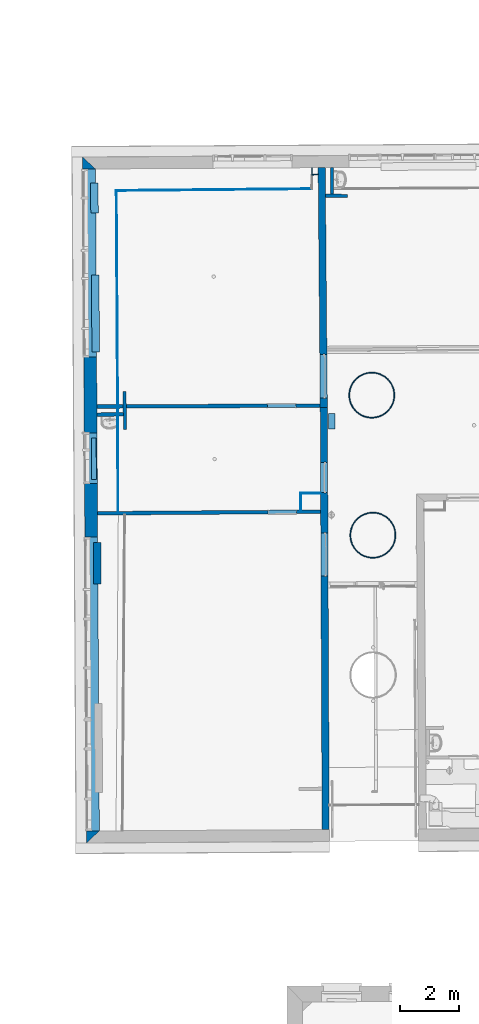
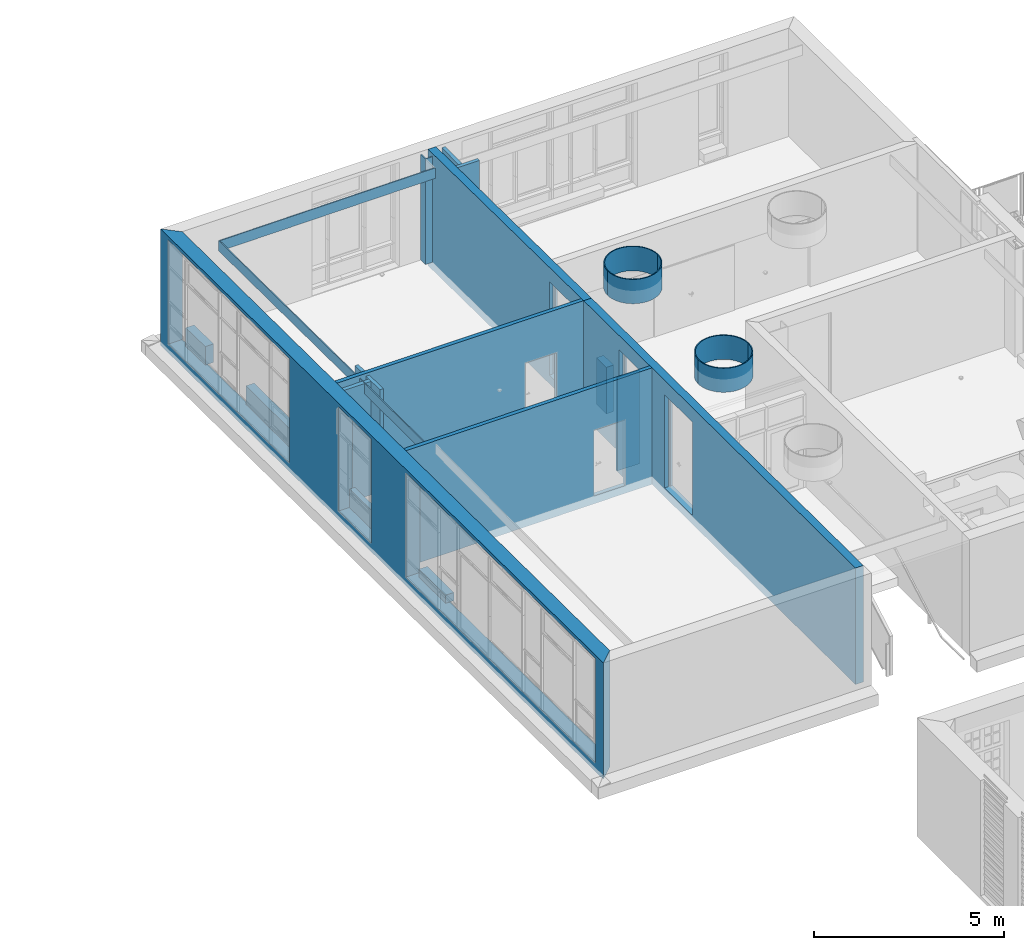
# One storey, part 26 of 158: 25 walls, 8 openings.
"""IFC2X3 building model written with IfcOpenShell, lengths in metres."""

from ifc_helpers import new_model, entity, si_unit, converted_unit, derived_unit, money_unit, point, direction, frame, frame_2d, origin_with_axes, origin_2d_with_axis, place, context, subcontext, project, spatial, polyline, circle_curve, parameter, trimmed, segment, composite_curve, rectangle, outline, extrude, faceted_brep, material, layer, layer_set, layer_usage, type_object, element, save


model = new_model("IFC2X3")

# Units and contexts
model_context = context("Model", 3, precision=1e-05, world=origin_with_axes(), true_north=direction((0.0, 1.0)))
body_context = subcontext(model_context, "Body", "Model", "MODEL_VIEW")
ifc_project = project(units=[si_unit("LENGTHUNIT", "METRE"), si_unit("AREAUNIT", "SQUARE_METRE"), si_unit("VOLUMEUNIT", "CUBIC_METRE"), converted_unit("PLANEANGLEUNIT", "DEGREE", entity("IfcPlaneAngleMeasure", 0.0174532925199), si_unit("PLANEANGLEUNIT", "RADIAN"), dimensions=[0, 0, 0, 0, 0, 0, 0]), money_unit("EUR"), converted_unit("TIMEUNIT", "Year", entity("IfcTimeMeasure", 31556926.0), si_unit("TIMEUNIT", "SECOND"), dimensions=[0, 0, 1, 0, 0, 0, 0]), si_unit("MASSUNIT", "GRAM", prefix="KILO"), si_unit("THERMODYNAMICTEMPERATUREUNIT", "DEGREE_CELSIUS"), si_unit("LUMINOUSINTENSITYUNIT", "LUMEN"), si_unit("ENERGYUNIT", "JOULE", prefix="MEGA"), derived_unit("THERMALCONDUCTANCEUNIT", [(si_unit("POWERUNIT", "WATT"), 1), (si_unit("LENGTHUNIT", "METRE"), -1), (si_unit("THERMODYNAMICTEMPERATUREUNIT", "KELVIN"), -1)]), derived_unit("SPECIFICHEATCAPACITYUNIT", [(si_unit("ENERGYUNIT", "JOULE"), 1), (si_unit("MASSUNIT", "GRAM", prefix="KILO"), -1), (si_unit("THERMODYNAMICTEMPERATUREUNIT", "KELVIN"), -1)]), derived_unit("MASSDENSITYUNIT", [(si_unit("MASSUNIT", "GRAM", prefix="KILO"), 1), (si_unit("VOLUMEUNIT", "CUBIC_METRE"), -1)])], contexts=[model_context])

# Site, building, storey
site_placement = place(None, origin_with_axes())
site = spatial("IfcSite", under=ifc_project, at=site_placement, Name="Gelände", CompositionType="ELEMENT")
building_placement = place(site_placement, origin_with_axes())
building = spatial("IfcBuilding", under=site, at=building_placement, Name="Gebäude", CompositionType="ELEMENT")
storey_placement = place(building_placement, origin_with_axes())
storey = spatial("IfcBuildingStorey", under=building, at=storey_placement, Name="ERDGESCHOSS", CompositionType="ELEMENT", Elevation=0.0)

# Wall, openings
ifc_material_1 = material(Name="05_ALLGEMEIN - TRAGENDE BAUTEILE")
ifc_layer_1 = layer(ifc_material_1, 0.43, ventilated="UNKNOWN")
ifc_layer_set_1 = layer_set([ifc_layer_1], Name="05_ALLGEMEIN - TRAGENDE BAUTEILE 0.43")
ifc_layer_usage_1 = layer_usage(ifc_layer_set_1, "AXIS2", "NEGATIVE", 0.43)
wall_type_1 = type_object("IfcWallType", Name="05_ALLGEMEIN - TRAGENDE BAUTEILE 430", PredefinedType="ELEMENTEDWALL")
wall_1_placement = place(storey_placement, frame((-34.9499215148, 53.9095265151, 1.06), z_axis=(0.0, 0.0, 1.0), x_axis=(0.00586471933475, -0.999982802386, 0.0)))
wall_1 = element("IfcWallStandardCase", 1, at=wall_1_placement, inside=storey, type_object=wall_type_1, material=ifc_layer_usage_1, Name="Wand-030", ObjectType="ELEMENTEDWALL", context=body_context, shape_type="SweptSolid", body=[
    extrude(outline(polyline([(0.0, 0.0), (23.068675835, 0.0), (22.6686239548, 0.43), (0.399981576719, 0.43), (0.0, 0.0)])), origin_with_axes(), (0.0, 0.0, 1.0), 3.74),
])
opening_1_placement = place(wall_1_placement, frame((3.56307867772, 0.0, 0.280439), z_axis=(0.0, 0.0, 1.0), x_axis=(1.0, 0.0, 0.0)))
element("IfcOpeningElement", 2, at=opening_1_placement, cuts=wall_1, Name="Fenster-021", context=body_context, shape_type="Brep", body=[
    faceted_brep([(3.163097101, 0.43, 0.0), (3.163097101, 0.43, 3.34343050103), (3.163097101, -0.86, 3.34343050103), (3.163097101, -0.86, 0.0), (-3.163097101, 0.43, 0.0), (-3.163097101, 0.43, 3.34343050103), (-3.163097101, -0.86, 3.34343050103), (-3.163097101, -0.86, 0.0)], [[[0, 1, 2, 3]], [[0, 4, 5, 1]], [[1, 5, 6, 2]], [[3, 2, 6, 7]], [[4, 0, 3, 7]], [[5, 4, 7, 6]]]),
])
opening_2_placement = place(wall_1_placement, frame((10.1296860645, 0.0, 0.280439), z_axis=(0.0, 0.0, 1.0), x_axis=(1.0, 0.0, 0.0)))
element("IfcOpeningElement", 3, at=opening_2_placement, cuts=wall_1, Name="Fenster-021", context=body_context, shape_type="SweptSolid", body=[
    extrude(rectangle(XDim=1.70991229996, YDim=3.34343050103, at=origin_2d_with_axis()), frame((0.0, 0.43, 1.67171525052), z_axis=(0.0, 1.0, 0.0), x_axis=(-1.0, 0.0, 0.0)), (0.0, 0.0, -1.0), 1.29),
])
opening_3_placement = place(wall_1_placement, frame((17.7270727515, 0.0, 0.280439), z_axis=(0.0, 0.0, 1.0), x_axis=(1.0, 0.0, 0.0)))
element("IfcOpeningElement", 4, at=opening_3_placement, cuts=wall_1, Name="Fenster-022", context=body_context, shape_type="SweptSolid", body=[
    extrude(rectangle(XDim=9.88310240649, YDim=3.34343050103, at=origin_2d_with_axis()), frame((0.0, 0.43, 1.67171525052), z_axis=(0.0, 1.0, 0.0), x_axis=(-1.0, 0.0, 0.0)), (0.0, 0.0, -1.0), 1.29),
])

# Walls
ifc_material_2 = material(Name="43_Gipskarton")
ifc_layer_2 = layer(ifc_material_2, 0.03, ventilated="UNKNOWN")
ifc_layer_set_2 = layer_set([ifc_layer_2], Name="43_Gipskarton 0.03")
ifc_layer_usage_2 = layer_usage(ifc_layer_set_2, "AXIS2", "NEGATIVE", 0.0)
wall_type_2 = type_object("IfcWallType", Name="43_Gipskarton 30", PredefinedType="ELEMENTEDWALL")
wall_2_placement = place(storey_placement, frame((-26.7862715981, 53.3212009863, 1.32), z_axis=(0.0, 0.0, 1.0), x_axis=(-0.999470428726, -0.0325401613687, 0.0)))
element("IfcWallStandardCase", 5, at=wall_2_placement, inside=storey, type_object=wall_type_2, material=ifc_layer_usage_2, Name="Wand-031", ObjectType="ELEMENTEDWALL", context=body_context, shape_type="SweptSolid", body=[
    extrude(outline(polyline([(0.239355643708, -0.03), (0.430657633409, -0.03), (0.461293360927, 0.0), (0.2400675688, 0.0), (0.239355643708, -0.03)])), origin_with_axes(), (0.0, 0.0, 1.0), 3.39),
])
ifc_layer_usage_3 = layer_usage(ifc_layer_set_2, "AXIS2", "NEGATIVE", 0.03)
wall_3_placement = place(storey_placement, frame((-26.7045279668, 42.6114149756, 1.32), z_axis=(0.0, 0.0, 1.0), x_axis=(-0.999975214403, 0.00704063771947, 0.0)))
element("IfcWallStandardCase", 6, at=wall_3_placement, inside=storey, type_object=wall_type_2, material=ifc_layer_usage_3, Name="Wand-031", ObjectType="ELEMENTEDWALL", context=body_context, shape_type="SweptSolid", body=[
    extrude(outline(polyline([(0.240015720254, 0.0), (0.923166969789, 0.0), (0.892996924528, 0.03), (0.239672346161, 0.03), (0.240015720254, 0.0)])), origin_with_axes(), (0.0, 0.0, 1.0), 3.005),
])
ifc_layer_usage_4 = layer_usage(ifc_layer_set_2, "AXIS2", "NEGATIVE", 0.03)
wall_4_placement = place(storey_placement, frame((-27.6276720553, 42.6179146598, 1.32), z_axis=(0.0, 0.0, 1.0), x_axis=(-0.00138855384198, -0.999999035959, 0.0)))
element("IfcWallStandardCase", 7, at=wall_4_placement, inside=storey, type_object=wall_type_2, material=ifc_layer_usage_4, Name="Wand-032", ObjectType="ELEMENTEDWALL", context=body_context, shape_type="SweptSolid", body=[
    extrude(outline(polyline([(0.0, 0.0), (0.579972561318, 0.0), (0.579712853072, 0.03), (0.0301700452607, 0.03), (0.0, 0.0)])), origin_with_axes(), (0.0, 0.0, 1.0), 3.005),
])
ifc_layer_usage_5 = layer_usage(ifc_layer_set_2, "AXIS2", "NEGATIVE", 0.0)
wall_5_placement = place(storey_placement, frame((-27.2473206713, 53.3061904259, 1.32), z_axis=(0.0, 0.0, 1.0), x_axis=(-0.0115776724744, 0.999932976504, 0.0)))
element("IfcWallStandardCase", 8, at=wall_5_placement, inside=storey, type_object=wall_type_2, material=ifc_layer_usage_5, Name="Wand-032", ObjectType="ELEMENTEDWALL", context=body_context, shape_type="SweptSolid", body=[
    extrude(outline(polyline([(0.0306357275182, -0.03), (0.248663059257, -0.03), (0.248833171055, 0.0), (0.0, 0.0), (0.0306357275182, -0.03)])), origin_with_axes(), (0.0, 0.0, 1.0), 3.39),
])
ifc_layer_usage_6 = layer_usage(ifc_layer_set_2, "AXIS2", "NEGATIVE", 0.0)
wall_6_placement = place(storey_placement, frame((-33.7839000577, 45.4615740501, 4.375), z_axis=(0.0, 0.0, 1.0), x_axis=(-0.00613669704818, 0.999981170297, 0.0)))
element("IfcWallStandardCase", 9, at=wall_6_placement, inside=storey, type_object=wall_type_2, material=ifc_layer_usage_6, Name="Wand-039", ObjectType="ELEMENTEDWALL", context=body_context, shape_type="SweptSolid", body=[
    extrude(outline(polyline([(0.122153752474, -0.03), (7.30589544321, -0.03), (7.33580168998, 0.0), (0.122212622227, 0.0), (0.122153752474, -0.03)])), origin_with_axes(), (0.0, 0.0, 1.0), 0.335),
])
ifc_layer_usage_7 = layer_usage(ifc_layer_set_2, "AXIS2", "NEGATIVE", 0.0)
wall_7_placement = place(storey_placement, frame((-33.7735715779, 41.8710626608, 4.375), z_axis=(0.0, 0.0, 1.0), x_axis=(-0.00237863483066, 0.999997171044, 0.0)))
element("IfcWallStandardCase", 10, at=wall_7_placement, inside=storey, type_object=wall_type_2, material=ifc_layer_usage_7, Name="Wand-039", ObjectType="ELEMENTEDWALL", context=body_context, shape_type="SweptSolid", body=[
    extrude(outline(polyline([(0.122360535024, -0.03), (3.59058288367, -0.03), (3.59052901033, 0.0), (0.122213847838, 0.0), (0.122360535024, -0.03)])), origin_with_axes(), (0.0, 0.0, 1.0), 0.335),
])
ifc_layer_usage_8 = layer_usage(ifc_layer_set_2, "AXIS2", "NEGATIVE", 0.0)
wall_8_placement = place(storey_placement, frame((-33.8289176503, 52.7972376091, 4.375), z_axis=(0.0, 0.0, 1.0), x_axis=(0.99995706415, 0.00926659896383, 0.0)))
element("IfcWallStandardCase", 11, at=wall_8_placement, inside=storey, type_object=wall_type_2, material=ifc_layer_usage_8, Name="Wand-040", ObjectType="ELEMENTEDWALL", context=body_context, shape_type="SweptSolid", body=[
    extrude(outline(polyline([(0.0299062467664, -0.03), (6.60613655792, -0.03), (6.57675156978, 0.0), (0.0, 0.0), (0.0299062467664, -0.03)])), origin_with_axes(), (0.0, 0.0, 1.0), 0.335),
])
ifc_layer_usage_9 = layer_usage(ifc_layer_set_2, "AXIS2", "NEGATIVE", 0.0)
wall_9_placement = place(storey_placement, frame((-24.4808750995, 45.9024343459, 4.385), z_axis=(0.0, 0.0, 1.0), x_axis=(0.0, 1.0, 0.0)))
element("IfcWallStandardCase", 12, at=wall_9_placement, inside=storey, type_object=wall_type_2, material=ifc_layer_usage_9, Name="Wand-042", ObjectType="ELEMENTEDWALL", context=body_context, shape_type="SweptSolid", body=[
    extrude(outline(composite_curve([segment(trimmed(circle_curve(frame_2d((0.0, 0.742022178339), x_axis=(0.0, -1.0)), 0.772022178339), [point((0.0, -0.03)), parameter(0.0)], [point((0.0, 1.51404435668)), parameter(180.0)], True, "CARTESIAN"), True, "CONTINUOUS"), segment(polyline([(0.0, 1.51404435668), (0.0, 1.48404435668)]), True, "CONTINUOUS"), segment(trimmed(circle_curve(frame_2d((0.0, 0.742022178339), x_axis=(0.0, -1.0)), 0.742022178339), [point((0.0, 1.48404435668)), parameter(180.0)], [point((0.0, 0.0)), parameter(0.0)], False, "CARTESIAN"), True, "CONTINUOUS"), segment(polyline([(0.0, 0.0), (0.0, -0.03)]), True, "CONTINUOUS")], self_intersect=False)), origin_with_axes(), (0.0, 0.0, 1.0), 0.78255860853),
])
ifc_layer_usage_10 = layer_usage(ifc_layer_set_2, "AXIS2", "NEGATIVE", 0.0)
wall_10_placement = place(storey_placement, frame((-25.9649194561, 45.9024343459, 4.385), z_axis=(0.0, 0.0, 1.0), x_axis=(0.0, -1.0, 0.0)))
element("IfcWallStandardCase", 13, at=wall_10_placement, inside=storey, type_object=wall_type_2, material=ifc_layer_usage_10, Name="Wand-043", ObjectType="ELEMENTEDWALL", context=body_context, shape_type="SweptSolid", body=[
    extrude(outline(composite_curve([segment(trimmed(circle_curve(frame_2d((0.0, 0.742022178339), x_axis=(0.0, -1.0)), 0.772022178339), [point((0.0, -0.03)), parameter(0.0)], [point((0.0, 1.51404435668)), parameter(180.0)], True, "CARTESIAN"), True, "CONTINUOUS"), segment(polyline([(0.0, 1.51404435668), (0.0, 1.48404435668)]), True, "CONTINUOUS"), segment(trimmed(circle_curve(frame_2d((0.0, 0.742022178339), x_axis=(0.0, -1.0)), 0.742022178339), [point((0.0, 1.48404435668)), parameter(180.0)], [point((0.0, 0.0)), parameter(0.0)], False, "CARTESIAN"), True, "CONTINUOUS"), segment(polyline([(0.0, 0.0), (0.0, -0.03)]), True, "CONTINUOUS")], self_intersect=False)), origin_with_axes(), (0.0, 0.0, 1.0), 0.78255860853),
])
ifc_layer_usage_11 = layer_usage(ifc_layer_set_2, "AXIS2", "NEGATIVE", 0.0)
wall_11_placement = place(storey_placement, frame((-24.4430411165, 41.1915924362, 4.385), z_axis=(0.0, 0.0, 1.0), x_axis=(0.0, 1.0, 0.0)))
element("IfcWallStandardCase", 14, at=wall_11_placement, inside=storey, type_object=wall_type_2, material=ifc_layer_usage_11, Name="Wand-044", ObjectType="ELEMENTEDWALL", context=body_context, shape_type="SweptSolid", body=[
    extrude(outline(composite_curve([segment(trimmed(circle_curve(frame_2d((0.0, 0.742621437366), x_axis=(0.0, -1.0)), 0.772621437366), [point((0.0, -0.03)), parameter(0.0)], [point((0.0, 1.51524287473)), parameter(180.0)], True, "CARTESIAN"), True, "CONTINUOUS"), segment(polyline([(0.0, 1.51524287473), (0.0, 1.48524287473)]), True, "CONTINUOUS"), segment(trimmed(circle_curve(frame_2d((0.0, 0.742621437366), x_axis=(0.0, -1.0)), 0.742621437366), [point((0.0, 1.48524287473)), parameter(180.0)], [point((0.0, 0.0)), parameter(0.0)], False, "CARTESIAN"), True, "CONTINUOUS"), segment(polyline([(0.0, 0.0), (0.0, -0.03)]), True, "CONTINUOUS")], self_intersect=False)), origin_with_axes(), (0.0, 0.0, 1.0), 0.77255860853),
])
ifc_layer_usage_12 = layer_usage(ifc_layer_set_2, "AXIS2", "NEGATIVE", 0.0)
wall_12_placement = place(storey_placement, frame((-25.9282839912, 41.1915924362, 4.385), z_axis=(0.0, 0.0, 1.0), x_axis=(0.0, -1.0, 0.0)))
element("IfcWallStandardCase", 15, at=wall_12_placement, inside=storey, type_object=wall_type_2, material=ifc_layer_usage_12, Name="Wand-045", ObjectType="ELEMENTEDWALL", context=body_context, shape_type="SweptSolid", body=[
    extrude(outline(composite_curve([segment(trimmed(circle_curve(frame_2d((0.0, 0.742621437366), x_axis=(0.0, -1.0)), 0.772621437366), [point((0.0, -0.03)), parameter(0.0)], [point((0.0, 1.51524287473)), parameter(180.0)], True, "CARTESIAN"), True, "CONTINUOUS"), segment(polyline([(0.0, 1.51524287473), (0.0, 1.48524287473)]), True, "CONTINUOUS"), segment(trimmed(circle_curve(frame_2d((0.0, 0.742621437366), x_axis=(0.0, -1.0)), 0.742621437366), [point((0.0, 1.48524287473)), parameter(180.0)], [point((0.0, 0.0)), parameter(0.0)], False, "CARTESIAN"), True, "CONTINUOUS"), segment(polyline([(0.0, 0.0), (0.0, -0.03)]), True, "CONTINUOUS")], self_intersect=False)), origin_with_axes(), (0.0, 0.0, 1.0), 0.77255860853),
])
ifc_material_3 = material(Name="01_ALLGEMEIN - BAUTEIL")
ifc_layer_3 = layer(ifc_material_3, 0.255, ventilated="UNKNOWN")
ifc_layer_set_3 = layer_set([ifc_layer_3], Name="01_ALLGEMEIN - BAUTEIL 0.255")
ifc_layer_usage_13 = layer_usage(ifc_layer_set_3, "AXIS2", "NEGATIVE", 0.255)
wall_type_3 = type_object("IfcWallType", Name="01_ALLGEMEIN - BAUTEIL 255", PredefinedType="ELEMENTEDWALL")
wall_13_placement = place(storey_placement, frame((-34.384596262, 47.3509567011, 1.46772922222), z_axis=(0.0, 0.0, 1.0), x_axis=(-0.0048051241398, 0.999988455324, 0.0)))
element("IfcWallStandardCase", 16, at=wall_13_placement, inside=storey, type_object=wall_type_3, material=ifc_layer_usage_13, Name="Wand-030", ObjectType="ELEMENTEDWALL", context=body_context, shape_type="SweptSolid", body=[
    extrude(outline(polyline([(0.0, 0.0), (2.59025073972, 0.0), (2.59025073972, 0.255), (0.0, 0.255), (0.0, 0.0)])), origin_with_axes(), (0.0, 0.0, 1.0), 0.594573),
])
ifc_layer_usage_14 = layer_usage(ifc_layer_set_3, "AXIS2", "NEGATIVE", 0.255)
wall_14_placement = place(storey_placement, frame((-34.3263151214, 39.5534769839, 1.34787238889), z_axis=(0.0, 0.0, 1.0), x_axis=(-0.00235430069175, 0.99999722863, 0.0)))
element("IfcWallStandardCase", 17, at=wall_14_placement, inside=storey, type_object=wall_type_3, material=ifc_layer_usage_14, Name="Wand-030", ObjectType="ELEMENTEDWALL", context=body_context, shape_type="SweptSolid", body=[
    extrude(outline(polyline([(0.0, 0.0), (1.39208854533, 0.0), (1.39208854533, 0.255), (0.0, 0.255), (0.0, 0.0)])), origin_with_axes(), (0.0, 0.0, 1.0), 0.260503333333),
])
ifc_layer_usage_15 = layer_usage(ifc_layer_set_3, "AXIS2", "NEGATIVE", 0.0)
wall_15_placement = place(storey_placement, frame((-34.4377581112, 53.040588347, 1.46772922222), z_axis=(0.0, 0.0, 1.0), x_axis=(0.0171126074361, -0.999853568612, 0.0)))
element("IfcWallStandardCase", 18, at=wall_15_placement, inside=storey, type_object=wall_type_3, material=ifc_layer_usage_15, Name="Wand-031", ObjectType="ELEMENTEDWALL", context=body_context, shape_type="SweptSolid", body=[
    extrude(outline(polyline([(0.0, -0.255), (1.00876333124, -0.255), (1.00876333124, 0.0), (0.0, 0.0), (0.0, -0.255)])), origin_with_axes(), (0.0, 0.0, 1.0), 0.594573),
])
ifc_layer_4 = layer(ifc_material_3, 0.225, ventilated="UNKNOWN")
ifc_layer_set_4 = layer_set([ifc_layer_4], Name="01_ALLGEMEIN - BAUTEIL 0.225")
ifc_layer_usage_16 = layer_usage(ifc_layer_set_4, "AXIS2", "NEGATIVE", 0.225)
wall_type_4 = type_object("IfcWallType", Name="01_ALLGEMEIN - BAUTEIL 225", PredefinedType="ELEMENTEDWALL")
wall_16_placement = place(storey_placement, frame((-26.4592410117, 44.7719121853, 1.49977922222), z_axis=(0.0, 0.0, 1.0), x_axis=(-0.00585972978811, 0.999982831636, 0.0)))
element("IfcWallStandardCase", 19, at=wall_16_placement, inside=storey, type_object=wall_type_4, material=ifc_layer_usage_16, Name="Wand-030", ObjectType="ELEMENTEDWALL", context=body_context, shape_type="SweptSolid", body=[
    extrude(outline(polyline([(0.0, 0.0), (0.520794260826, 0.0), (0.520794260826, 0.225), (0.0, 0.225), (0.0, 0.0)])), origin_with_axes(), (0.0, 0.0, 1.0), 1.495583),
])
ifc_layer_5 = layer(ifc_material_3, 0.16, ventilated="UNKNOWN")
ifc_layer_set_5 = layer_set([ifc_layer_5], Name="01_ALLGEMEIN - BAUTEIL 0.16")
ifc_layer_usage_17 = layer_usage(ifc_layer_set_5, "AXIS2", "NEGATIVE", 0.16)
wall_type_5 = type_object("IfcWallType", Name="01_ALLGEMEIN - BAUTEIL 160", PredefinedType="ELEMENTEDWALL")
wall_17_placement = place(storey_placement, frame((-34.4845198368, 43.0734004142, 1.46772922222), z_axis=(0.0, 0.0, 1.0), x_axis=(-0.0104920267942, 0.999944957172, 0.0)))
element("IfcWallStandardCase", 20, at=wall_17_placement, inside=storey, type_object=wall_type_5, material=ifc_layer_usage_17, Name="Wand-030", ObjectType="ELEMENTEDWALL", context=body_context, shape_type="SweptSolid", body=[
    extrude(outline(polyline([(0.0, 0.0), (1.39557600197, 0.0), (1.39557600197, 0.16), (0.0, 0.16), (0.0, 0.0)])), origin_with_axes(), (0.0, 0.0, 1.0), 0.6),
])

# Wall, openings
ifc_layer_6 = layer(ifc_material_1, 0.24, ventilated="UNKNOWN")
ifc_layer_set_6 = layer_set([ifc_layer_6], Name="05_ALLGEMEIN - TRAGENDE BAUTEILE 0.24")
ifc_layer_usage_18 = layer_usage(ifc_layer_set_6, "AXIS2", "NEGATIVE", 0.0)
wall_type_6 = type_object("IfcWallType", Name="05_ALLGEMEIN - TRAGENDE BAUTEILE 240", PredefinedType="ELEMENTEDWALL")
wall_18_placement = place(storey_placement, frame((-26.7172118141, 45.4910734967, 1.06), z_axis=(0.0, 0.0, 1.0), x_axis=(0.00440459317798, -0.999990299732, 0.0)))
wall_18 = element("IfcWallStandardCase", 21, at=wall_18_placement, inside=storey, type_object=wall_type_6, material=ifc_layer_usage_18, Name="Wand-031", ObjectType="ELEMENTEDWALL", context=body_context, shape_type="SweptSolid", body=[
    extrude(outline(polyline([(0.000529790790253, -0.24), (14.2014948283, -0.24), (14.2011154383, 0.0), (0.0, 0.0), (0.000529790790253, -0.24)])), origin_with_axes(), (0.0, 0.0, 1.0), 3.74),
])
opening_4_placement = place(wall_18_placement, frame((4.94845001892, 0.0, 0.280439), z_axis=(0.0, 0.0, 1.0), x_axis=(1.0, 0.0, 0.0)))
element("IfcOpeningElement", 22, at=opening_4_placement, cuts=wall_18, Name="Tür-022", context=body_context, shape_type="SweptSolid", body=[
    extrude(rectangle(XDim=1.45150553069, YDim=2.994561, at=origin_2d_with_axis()), frame((0.0, -0.125, 1.4972805), z_axis=(0.0, 1.0, 0.0), x_axis=(1.0, 0.0, 0.0)), (0.0, 0.0, -1.0), 0.355),
    extrude(rectangle(XDim=1.49150553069, YDim=3.014561, at=origin_2d_with_axis()), frame((0.0, -0.06, 1.5072805), z_axis=(0.0, -1.0, 0.0), x_axis=(1.0, 0.0, 0.0)), (0.0, 0.0, 1.0), 0.065),
    extrude(rectangle(XDim=1.45150553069, YDim=2.994561, at=origin_2d_with_axis()), frame((0.0, -0.06, 1.4972805), z_axis=(0.0, -1.0, 0.0), x_axis=(1.0, 0.0, 0.0)), (0.0, 0.0, -1.0), 0.3),
])
opening_5_placement = place(wall_18_placement, frame((2.36044873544, 0.0, 0.280439), z_axis=(0.0, 0.0, 1.0), x_axis=(1.0, 0.0, 0.0)))
element("IfcOpeningElement", 23, at=opening_5_placement, cuts=wall_18, Name="Tür-022", context=body_context, shape_type="SweptSolid", body=[
    extrude(rectangle(XDim=1.0137106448, YDim=2.994561, at=origin_2d_with_axis()), frame((0.0, -0.125, 1.4972805), z_axis=(0.0, -1.0, 0.0), x_axis=(1.0, 0.0, 0.0)), (0.0, 0.0, 1.0), 0.355),
    extrude(rectangle(XDim=1.0537106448, YDim=3.014561, at=origin_2d_with_axis()), frame((0.0, -0.06, 1.5072805), z_axis=(0.0, 1.0, 0.0), x_axis=(1.0, 0.0, 0.0)), (0.0, 0.0, -1.0), 0.065),
    extrude(rectangle(XDim=1.0137106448, YDim=2.994561, at=origin_2d_with_axis()), frame((0.0, -0.06, 1.4972805), z_axis=(0.0, 1.0, 0.0), x_axis=(1.0, 0.0, 0.0)), (0.0, 0.0, 1.0), 0.3),
])

# Wall, opening
ifc_layer_usage_19 = layer_usage(ifc_layer_set_6, "AXIS2", "NEGATIVE", 0.0)
wall_19_placement = place(storey_placement, frame((-26.7918855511, 53.957721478, 1.06), z_axis=(0.0, 0.0, 1.0), x_axis=(0.00881940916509, -0.999961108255, 0.0)))
wall_19 = element("IfcWallStandardCase", 24, at=wall_19_placement, inside=storey, type_object=wall_type_6, material=ifc_layer_usage_19, Name="Wand-031", ObjectType="ELEMENTEDWALL", context=body_context, shape_type="SweptSolid", body=[
    extrude(outline(polyline([(0.399302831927, -0.24), (8.46644748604, -0.24), (8.46697727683, 0.0), (0.400001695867, 0.0), (0.399302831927, -0.24)])), origin_with_axes(), (0.0, 0.0, 1.0), 3.74),
])
opening_6_placement = place(wall_19_placement, frame((7.41717696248, 0.0, 0.280439), z_axis=(0.0, 0.0, 1.0), x_axis=(1.0, 0.0, 0.0)))
element("IfcOpeningElement", 25, at=opening_6_placement, cuts=wall_19, Name="Tür-022", context=body_context, shape_type="SweptSolid", body=[
    extrude(rectangle(XDim=1.45150553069, YDim=2.994561, at=origin_2d_with_axis()), frame((0.0, -0.125, 1.4972805), z_axis=(0.0, -1.0, 0.0), x_axis=(-1.0, 0.0, 0.0)), (0.0, 0.0, 1.0), 0.355),
    extrude(rectangle(XDim=1.49150553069, YDim=3.014561, at=origin_2d_with_axis()), frame((0.0, -0.125, 1.5072805), z_axis=(0.0, -1.0, 0.0), x_axis=(-1.0, 0.0, 0.0)), (0.0, 0.0, -1.0), 0.065),
    extrude(rectangle(XDim=1.45150553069, YDim=2.994561, at=origin_2d_with_axis()), frame((0.0, -0.06, 1.4972805), z_axis=(0.0, 1.0, 0.0), x_axis=(-1.0, 0.0, 0.0)), (0.0, 0.0, 1.0), 0.3),
])

# Walls
ifc_layer_7 = layer(ifc_material_2, 0.105, ventilated="UNKNOWN")
ifc_layer_set_7 = layer_set([ifc_layer_7], Name="43_Gipskarton 0.105")
ifc_layer_usage_20 = layer_usage(ifc_layer_set_7, "AXIS2", "NEGATIVE", 0.105)
wall_type_7 = type_object("IfcWallType", Name="43_Gipskarton 105", PredefinedType="ELEMENTEDWALL")
wall_20_placement = place(storey_placement, frame((-26.50936911, 52.5571756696, 1.32), z_axis=(0.0, 0.0, 1.0), x_axis=(0.00505860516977, 0.999987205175, 0.0)))
element("IfcWallStandardCase", 26, at=wall_20_placement, inside=storey, type_object=wall_type_7, material=ifc_layer_usage_20, Name="Wand-031", ObjectType="ELEMENTEDWALL", context=body_context, shape_type="SweptSolid", body=[
    extrude(outline(polyline([(0.105000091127, 0.0), (1.00225061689, 0.0), (1.00109911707, 0.105), (0.104861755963, 0.105), (0.105000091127, 0.0)])), origin_with_axes(), (0.0, 0.0, 1.0), 3.38),
])
ifc_layer_usage_21 = layer_usage(ifc_layer_set_7, "AXIS2", "NEGATIVE", 0.105)
wall_21_placement = place(storey_placement, frame((-26.7795419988, 52.5581864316, 1.32), z_axis=(0.0, 0.0, 1.0), x_axis=(0.999993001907, -0.00374114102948, 0.0)))
element("IfcWallStandardCase", 27, at=wall_21_placement, inside=storey, type_object=wall_type_7, material=ifc_layer_usage_21, Name="Wand-031", ObjectType="ELEMENTEDWALL", context=body_context, shape_type="SweptSolid", body=[
    extrude(outline(polyline([(0.0, 0.0), (0.737157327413, 0.0), (0.737157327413, 0.105), (-0.00131894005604, 0.105), (0.0, 0.0)])), origin_with_axes(), (0.0, 0.0, 1.0), 3.38),
])
ifc_layer_usage_22 = layer_usage(ifc_layer_set_7, "AXIS2", "NEGATIVE", 0.0)
wall_22_placement = place(storey_placement, frame((-33.488776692, 46.0313143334, 1.06), z_axis=(0.0, 0.0, 1.0), x_axis=(0.0141850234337, -0.999899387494, 0.0)))
element("IfcWallStandardCase", 28, at=wall_22_placement, inside=storey, type_object=wall_type_7, material=ifc_layer_usage_22, Name="Wand-031", ObjectType="ELEMENTEDWALL", context=body_context, shape_type="SweptSolid", body=[
    extrude(outline(polyline([(0.0, -0.105), (1.28524093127, -0.105), (1.28524093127, 0.0), (0.0, 0.0), (0.0, -0.105)])), origin_with_axes(), (0.0, 0.0, 1.0), 3.65),
])
ifc_layer_8 = layer(ifc_material_2, 0.122212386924, ventilated="UNKNOWN")
ifc_layer_set_8 = layer_set([ifc_layer_8], Name="43_Gipskarton 0.122212")
ifc_layer_usage_23 = layer_usage(ifc_layer_set_8, "AXIS2", "NEGATIVE", 0.122212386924)
wall_type_8 = type_object("IfcWallType", Name="43_Gipskarton 122", PredefinedType="ELEMENTEDWALL")
wall_23_placement = place(storey_placement, frame((-34.8987396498, 45.1825982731, 1.06), z_axis=(0.0, 0.0, 1.0), x_axis=(0.999947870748, 0.0102105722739, 0.0)))
element("IfcWallStandardCase", 29, at=wall_23_placement, inside=storey, type_object=wall_type_8, material=ifc_layer_usage_23, Name="Wand-031", ObjectType="ELEMENTEDWALL", context=body_context, shape_type="SweptSolid", body=[
    extrude(outline(polyline([(0.430004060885, 0.0), (1.31687055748, 0.0), (1.3163847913, 0.122212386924), (0.430535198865, 0.122212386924), (0.430004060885, 0.0)])), origin_with_axes(), (0.0, 0.0, 1.0), 3.65),
])

# Wall, opening
ifc_layer_usage_24 = layer_usage(ifc_layer_set_8, "AXIS2", "NEGATIVE", 0.0)
wall_24_placement = place(storey_placement, frame((-26.7172118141, 45.4910734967, 1.06), z_axis=(0.0, 0.0, 1.0), x_axis=(-0.999991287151, -0.00417440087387, 0.0)))
wall_24 = element("IfcWallStandardCase", 30, at=wall_24_placement, inside=storey, type_object=wall_type_8, material=ifc_layer_usage_24, Name="Wand-031", ObjectType="ELEMENTEDWALL", context=body_context, shape_type="SweptSolid", body=[
    extrude(outline(polyline([(0.240570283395, -0.122212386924), (7.75341391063, -0.122212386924), (7.75320732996, 0.0), (0.240002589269, 0.0), (0.240570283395, -0.122212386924)])), origin_with_axes(), (0.0, 0.0, 1.0), 3.74),
])
opening_7_placement = place(wall_24_placement, frame((1.54057472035, 0.0, 0.26), z_axis=(0.0, 0.0, 1.0), x_axis=(1.0, 0.0, 0.0)))
element("IfcOpeningElement", 31, at=opening_7_placement, cuts=wall_24, Name="Tür-022", context=body_context, shape_type="SweptSolid", body=[
    extrude(rectangle(XDim=0.954690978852, YDim=2.10124222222, at=origin_2d_with_axis()), frame((0.0, -0.122212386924, 1.05062111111), z_axis=(0.0, 1.0, 0.0), x_axis=(-1.0, 0.0, 0.0)), (0.0, 0.0, 1.0), 0.366637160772),
])

ifc_layer_usage_25 = layer_usage(ifc_layer_set_8, "AXIS2", "NEGATIVE", 0.122212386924)
wall_25_placement = place(storey_placement, frame((-34.8792709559, 41.8630261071, 1.06), z_axis=(0.0, 0.0, 1.0), x_axis=(0.999973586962, 0.00726810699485, 0.0)))
wall_25 = element("IfcWallStandardCase", 32, at=wall_25_placement, inside=storey, type_object=wall_type_8, material=ifc_layer_usage_25, Name="Wand-031", ObjectType="ELEMENTEDWALL", context=body_context, shape_type="SweptSolid", body=[
    extrude(outline(polyline([(0.430000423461, 0.0), (7.93799258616, 0.0), (7.93834255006, 0.122212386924), (0.430171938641, 0.122212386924), (0.430000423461, 0.0)])), origin_with_axes(), (0.0, 0.0, 1.0), 3.74),
])
opening_8_placement = place(wall_25_placement, frame((6.64707640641, 0.0, 0.26), z_axis=(0.0, 0.0, 1.0), x_axis=(1.0, 0.0, 0.0)))
element("IfcOpeningElement", 33, at=opening_8_placement, cuts=wall_25, Name="Tür-022", context=body_context, shape_type="SweptSolid", body=[
    extrude(rectangle(XDim=0.947502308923, YDim=2.10092322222, at=origin_2d_with_axis()), frame((0.0, -0.122212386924, 1.05046161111), z_axis=(0.0, -1.0, 0.0), x_axis=(1.0, 0.0, 0.0)), (0.0, 0.0, -1.0), 0.366637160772),
])

save(model, "model.ifc")
